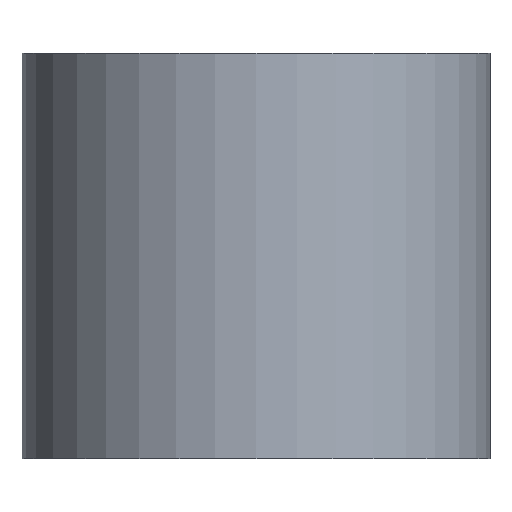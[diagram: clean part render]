
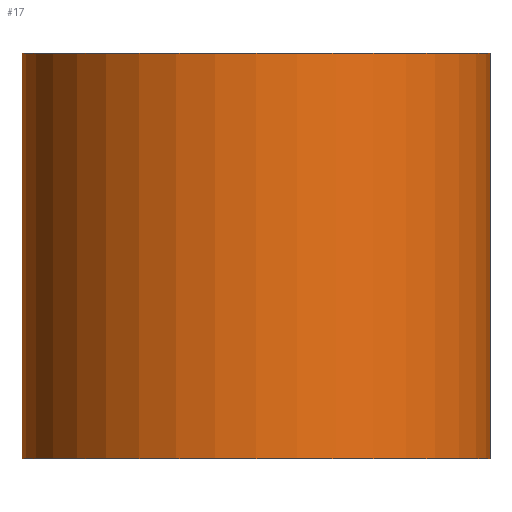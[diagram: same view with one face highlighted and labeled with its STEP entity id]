
A CAD part, front view. The second image highlights one B-rep face of the part: STEP entity #17.
In plain terms, the highlighted cylindrical face has radius 7.5 mm (diameter 15 mm), a full revolution.
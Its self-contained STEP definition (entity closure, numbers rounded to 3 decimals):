
#17 = ADVANCED_FACE('',(#18),#45,.T.);
#18 = FACE_BOUND('',#19,.T.);
#19 = EDGE_LOOP('',(#20,#29,#37,#44));
#20 = ORIENTED_EDGE('',*,*,#21,.F.);
#21 = EDGE_CURVE('',#22,#22,#24,.T.);
#22 = VERTEX_POINT('',#23);
#23 = CARTESIAN_POINT('',(7.5,0.,130.175));
#24 = CIRCLE('',#25,7.5);
#25 = AXIS2_PLACEMENT_3D('',#26,#27,#28);
#26 = CARTESIAN_POINT('',(0.,0.,130.175));
#27 = DIRECTION('',(0.,0.,1.));
#28 = DIRECTION('',(1.,0.,0.));
#29 = ORIENTED_EDGE('',*,*,#30,.F.);
#30 = EDGE_CURVE('',#31,#22,#33,.T.);
#31 = VERTEX_POINT('',#32);
#32 = CARTESIAN_POINT('',(7.5,0.,117.175));
#33 = LINE('',#34,#35);
#34 = CARTESIAN_POINT('',(7.5,0.,117.175));
#35 = VECTOR('',#36,1.);
#36 = DIRECTION('',(0.,0.,1.));
#37 = ORIENTED_EDGE('',*,*,#38,.T.);
#38 = EDGE_CURVE('',#31,#31,#39,.T.);
#39 = CIRCLE('',#40,7.5);
#40 = AXIS2_PLACEMENT_3D('',#41,#42,#43);
#41 = CARTESIAN_POINT('',(0.,0.,117.175));
#42 = DIRECTION('',(0.,0.,1.));
#43 = DIRECTION('',(1.,0.,0.));
#44 = ORIENTED_EDGE('',*,*,#30,.T.);
#45 = CYLINDRICAL_SURFACE('',#46,7.5);
#46 = AXIS2_PLACEMENT_3D('',#47,#48,#49);
#47 = CARTESIAN_POINT('',(0.,0.,117.175));
#48 = DIRECTION('',(0.,0.,1.));
#49 = DIRECTION('',(1.,0.,0.));
